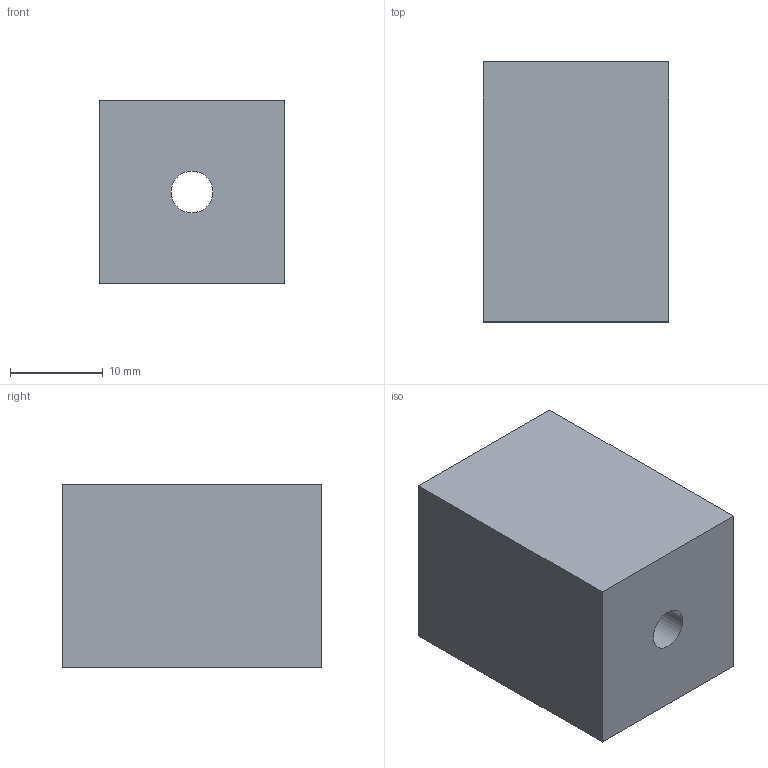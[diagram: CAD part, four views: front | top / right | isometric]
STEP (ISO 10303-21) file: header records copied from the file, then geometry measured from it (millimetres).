
FILE_DESCRIPTION(('Open CASCADE Model'),'2;1');
FILE_NAME('Open CASCADE Shape Model','2026-11-14T16:01:19',('Author'),( 'Open CASCADE'),'Open CASCADE STEP processor 7.9','Open CASCADE 7.9' ,'Unknown');
FILE_SCHEMA(('AUTOMOTIVE_DESIGN { 1 0 10303 214 1 1 1 1 }'));
Length unit declared in the file: millimetre
Products named in the file (1): Open CASCADE STEP translator 7.9 51
Bounding box: 20 x 28 x 19.8 mm (x, y, z)
Volume: 10642.7 mm3; surface area: 3384.8 mm2
Topology: 1 solids, 1 shells, 7 faces, 15 edges, 10 vertices
Faces by surface type: plane 6, cylinder 1
Full cylindrical faces by diameter (mm): 4.5 x1
Entity records: 400 total; most frequent: CARTESIAN_POINT 63, DIRECTION 63, LINE 41, VECTOR 41, ORIENTED_EDGE 30, PCURVE 30, DEFINITIONAL_REPRESENTATION 30, EDGE_CURVE 15
